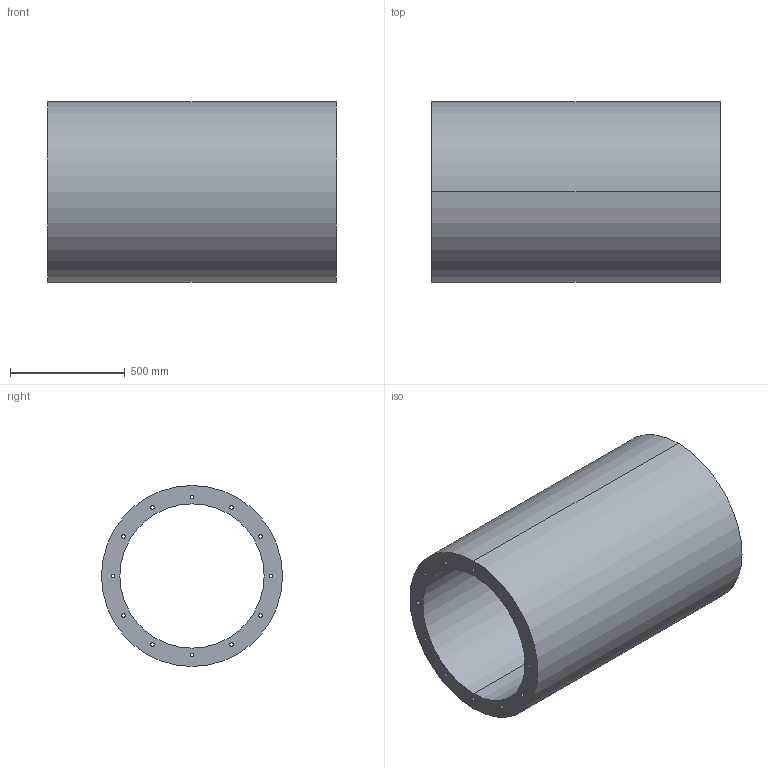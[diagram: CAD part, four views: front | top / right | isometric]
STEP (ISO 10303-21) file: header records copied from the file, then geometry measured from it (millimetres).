
FILE_DESCRIPTION(('STEP AP214'),'1');
FILE_NAME('accessory_5211811500.stp','2017-10-09T11:38:25',('TraceParts'),('TraceParts S.A.'),'Spatial InterOp 3D',' ',' ');
FILE_SCHEMA(('automotive_design'));
Length unit declared in the file: millimetre
Products named in the file (1): accessory_5211811500
Bounding box: 1260 x 790 x 790 mm (x, y, z)
Volume: 221797446.7 mm3; surface area: 6733011.1 mm2
Topology: 1 solids, 1 shells, 30 faces, 84 edges, 56 vertices
Faces by surface type: cylinder 28, plane 2
Entity records: 1312 total; most frequent: DIRECTION 202, CARTESIAN_POINT 171, ORIENTED_EDGE 168, AXIS2_PLACEMENT_3D 87, EDGE_CURVE 84, EDGE_LOOP 56, VERTEX_POINT 56, CIRCLE 56
